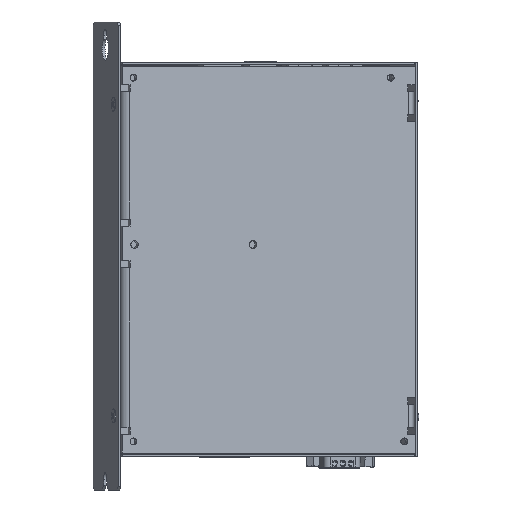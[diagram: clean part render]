
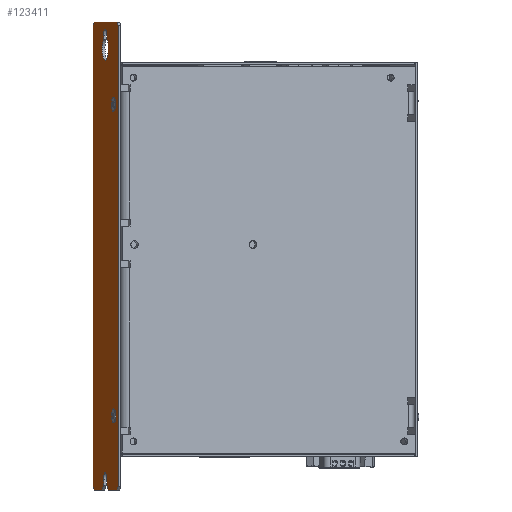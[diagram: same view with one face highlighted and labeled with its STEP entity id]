
A CAD part, left-side view. The second image highlights one B-rep face of the part: STEP entity #123411.
In plain terms, the highlighted planar face has unit normal (-0.259, 0.966, 0).
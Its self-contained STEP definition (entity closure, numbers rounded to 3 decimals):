
#1951=CIRCLE('',#130100,0.098);
#1953=CIRCLE('',#130103,0.098);
#1955=CIRCLE('',#130106,0.197);
#1963=CIRCLE('',#130127,0.118);
#1965=CIRCLE('',#130131,0.118);
#4676=FACE_BOUND('',#12134,.T.);
#4677=FACE_BOUND('',#12135,.T.);
#4678=FACE_BOUND('',#12136,.T.);
#5459=FACE_OUTER_BOUND('',#12133,.T.);
#12133=EDGE_LOOP('',(#76709,#76710,#76711,#76712,#76713,#76714,#76715,#76716,
#76717,#76718,#76719,#76720,#76721,#76722,#76723,#76724));
#12134=EDGE_LOOP('',(#76725,#76726,#76727,#76728));
#12135=EDGE_LOOP('',(#76729));
#12136=EDGE_LOOP('',(#76730));
#19578=LINE('',#172646,#33781);
#19582=LINE('',#172654,#33785);
#19584=LINE('',#172659,#33787);
#19588=LINE('',#172671,#33791);
#19592=LINE('',#172683,#33795);
#19595=LINE('',#172689,#33798);
#19597=LINE('',#172693,#33800);
#19602=LINE('',#172704,#33805);
#19604=LINE('',#172709,#33807);
#19610=LINE('',#172722,#33813);
#19613=LINE('',#172726,#33816);
#19614=LINE('',#172729,#33817);
#19615=LINE('',#172730,#33818);
#19616=LINE('',#172731,#33819);
#19617=LINE('',#172732,#33820);
#19618=LINE('',#172734,#33821);
#19619=LINE('',#172735,#33822);
#33781=VECTOR('',#139612,0.039);
#33785=VECTOR('',#139620,0.039);
#33787=VECTOR('',#139624,0.039);
#33791=VECTOR('',#139636,0.039);
#33795=VECTOR('',#139648,0.039);
#33798=VECTOR('',#139653,0.039);
#33800=VECTOR('',#139657,0.039);
#33805=VECTOR('',#139664,0.039);
#33807=VECTOR('',#139668,0.039);
#33813=VECTOR('',#139676,0.039);
#33816=VECTOR('',#139681,0.039);
#33817=VECTOR('',#139684,0.039);
#33818=VECTOR('',#139685,0.039);
#33819=VECTOR('',#139686,0.039);
#33820=VECTOR('',#139687,0.039);
#33821=VECTOR('',#139688,0.039);
#33822=VECTOR('',#139689,0.039);
#47962=VERTEX_POINT('',#172575);
#47964=VERTEX_POINT('',#172581);
#47967=VERTEX_POINT('',#172588);
#47968=VERTEX_POINT('',#172590);
#47983=VERTEX_POINT('',#172634);
#47986=VERTEX_POINT('',#172642);
#47988=VERTEX_POINT('',#172652);
#47990=VERTEX_POINT('',#172658);
#47993=VERTEX_POINT('',#172668);
#47994=VERTEX_POINT('',#172670);
#47996=VERTEX_POINT('',#172675);
#47998=VERTEX_POINT('',#172682);
#48000=VERTEX_POINT('',#172688);
#48001=VERTEX_POINT('',#172692);
#48005=VERTEX_POINT('',#172701);
#48006=VERTEX_POINT('',#172703);
#48007=VERTEX_POINT('',#172707);
#48008=VERTEX_POINT('',#172708);
#48013=VERTEX_POINT('',#172719);
#48014=VERTEX_POINT('',#172721);
#48015=VERTEX_POINT('',#172728);
#48016=VERTEX_POINT('',#172733);
#59170=EDGE_CURVE('',#47962,#47962,#1951,.T.);
#59173=EDGE_CURVE('',#47964,#47964,#1953,.T.);
#59176=EDGE_CURVE('',#47967,#47968,#1955,.T.);
#59204=EDGE_CURVE('',#47983,#47986,#19578,.T.);
#59208=EDGE_CURVE('',#47988,#47967,#19582,.T.);
#59210=EDGE_CURVE('',#47968,#47990,#19584,.T.);
#59213=EDGE_CURVE('',#47990,#47988,#1963,.T.);
#59216=EDGE_CURVE('',#47993,#47994,#19588,.T.);
#59220=EDGE_CURVE('',#47994,#47996,#1965,.T.);
#59222=EDGE_CURVE('',#47996,#47998,#19592,.T.);
#59225=EDGE_CURVE('',#47998,#48000,#19595,.T.);
#59227=EDGE_CURVE('',#48000,#48001,#19597,.T.);
#59232=EDGE_CURVE('',#48005,#48006,#19602,.T.);
#59234=EDGE_CURVE('',#48007,#48008,#19604,.T.);
#59240=EDGE_CURVE('',#48013,#48014,#19610,.T.);
#59243=EDGE_CURVE('',#48014,#47993,#19613,.T.);
#59244=EDGE_CURVE('',#47986,#48015,#19614,.T.);
#59245=EDGE_CURVE('',#48015,#48001,#19615,.T.);
#59246=EDGE_CURVE('',#48013,#48008,#19616,.T.);
#59247=EDGE_CURVE('',#48007,#48006,#19617,.T.);
#59248=EDGE_CURVE('',#48005,#48016,#19618,.T.);
#59249=EDGE_CURVE('',#48016,#47983,#19619,.T.);
#76709=ORIENTED_EDGE('',*,*,#59244,.T.);
#76710=ORIENTED_EDGE('',*,*,#59245,.T.);
#76711=ORIENTED_EDGE('',*,*,#59227,.F.);
#76712=ORIENTED_EDGE('',*,*,#59225,.F.);
#76713=ORIENTED_EDGE('',*,*,#59222,.F.);
#76714=ORIENTED_EDGE('',*,*,#59220,.F.);
#76715=ORIENTED_EDGE('',*,*,#59216,.F.);
#76716=ORIENTED_EDGE('',*,*,#59243,.F.);
#76717=ORIENTED_EDGE('',*,*,#59240,.F.);
#76718=ORIENTED_EDGE('',*,*,#59246,.T.);
#76719=ORIENTED_EDGE('',*,*,#59234,.F.);
#76720=ORIENTED_EDGE('',*,*,#59247,.T.);
#76721=ORIENTED_EDGE('',*,*,#59232,.F.);
#76722=ORIENTED_EDGE('',*,*,#59248,.T.);
#76723=ORIENTED_EDGE('',*,*,#59249,.T.);
#76724=ORIENTED_EDGE('',*,*,#59204,.T.);
#76725=ORIENTED_EDGE('',*,*,#59213,.F.);
#76726=ORIENTED_EDGE('',*,*,#59210,.F.);
#76727=ORIENTED_EDGE('',*,*,#59176,.F.);
#76728=ORIENTED_EDGE('',*,*,#59208,.F.);
#76729=ORIENTED_EDGE('',*,*,#59170,.F.);
#76730=ORIENTED_EDGE('',*,*,#59173,.F.);
#111449=PLANE('',#130139);
#123411=ADVANCED_FACE('',(#5459,#4676,#4677,#4678),#111449,.T.);
#130100=AXIS2_PLACEMENT_3D('',#172577,#139545,#139546);
#130103=AXIS2_PLACEMENT_3D('',#172583,#139552,#139553);
#130106=AXIS2_PLACEMENT_3D('',#172591,#139559,#139560);
#130127=AXIS2_PLACEMENT_3D('',#172663,#139630,#139631);
#130131=AXIS2_PLACEMENT_3D('',#172678,#139643,#139644);
#130139=AXIS2_PLACEMENT_3D('',#172727,#139682,#139683);
#139545=DIRECTION('center_axis',(-0.259,0.966,0.));
#139546=DIRECTION('ref_axis',(-0.966,-0.259,0.));
#139552=DIRECTION('center_axis',(-0.259,0.966,0.));
#139553=DIRECTION('ref_axis',(-0.966,-0.259,0.));
#139559=DIRECTION('center_axis',(-0.259,0.966,0.));
#139560=DIRECTION('ref_axis',(-0.966,-0.259,0.));
#139612=DIRECTION('',(0.,0.,-1.));
#139620=DIRECTION('',(0.,0.,-1.));
#139624=DIRECTION('',(0.,0.,1.));
#139630=DIRECTION('center_axis',(-0.259,0.966,0.));
#139631=DIRECTION('ref_axis',(-0.966,-0.259,0.));
#139636=DIRECTION('',(0.,0.,1.));
#139643=DIRECTION('center_axis',(-0.259,0.966,0.));
#139644=DIRECTION('ref_axis',(-0.966,-0.259,0.));
#139648=DIRECTION('',(0.,0.,-1.));
#139653=DIRECTION('',(0.683,0.183,-0.707));
#139657=DIRECTION('',(0.966,0.259,0.));
#139664=DIRECTION('',(-0.966,-0.259,0.));
#139668=DIRECTION('',(0.,0.,-1.));
#139676=DIRECTION('',(0.966,0.259,0.));
#139681=DIRECTION('',(0.683,0.183,0.707));
#139682=DIRECTION('center_axis',(-0.259,0.966,0.));
#139683=DIRECTION('ref_axis',(-0.966,-0.259,0.));
#139684=DIRECTION('',(0.,0.,-1.));
#139685=DIRECTION('',(-0.683,-0.183,-0.707));
#139686=DIRECTION('',(-0.683,-0.183,0.707));
#139687=DIRECTION('',(0.683,0.183,0.707));
#139688=DIRECTION('',(0.683,0.183,-0.707));
#139689=DIRECTION('',(0.,0.,-1.));
#172575=CARTESIAN_POINT('',(-1.571,3.87,5.713));
#172577=CARTESIAN_POINT('Origin',(-1.666,3.844,5.713));
#172581=CARTESIAN_POINT('',(-1.571,3.87,0.398));
#172583=CARTESIAN_POINT('Origin',(-1.666,3.844,0.398));
#172588=CARTESIAN_POINT('',(-1.,4.022,6.795));
#172590=CARTESIAN_POINT('',(-1.228,3.961,6.795));
#172591=CARTESIAN_POINT('Origin',(-1.114,3.992,6.638));
#172634=CARTESIAN_POINT('',(-0.35,4.197,6.355));
#172642=CARTESIAN_POINT('',(-0.35,4.197,-0.244));
#172646=CARTESIAN_POINT('',(-0.35,4.197,-0.862));
#172652=CARTESIAN_POINT('',(-1.,4.022,6.855));
#172654=CARTESIAN_POINT('',(-1.,4.022,6.855));
#172658=CARTESIAN_POINT('',(-1.228,3.961,6.855));
#172659=CARTESIAN_POINT('',(-1.228,3.961,6.855));
#172663=CARTESIAN_POINT('Origin',(-1.114,3.992,6.855));
#172668=CARTESIAN_POINT('',(-1.228,3.961,-0.783));
#172670=CARTESIAN_POINT('',(-1.228,3.961,-0.685));
#172671=CARTESIAN_POINT('',(-1.228,3.961,-0.685));
#172675=CARTESIAN_POINT('',(-1.,4.022,-0.685));
#172678=CARTESIAN_POINT('Origin',(-1.114,3.992,-0.685));
#172682=CARTESIAN_POINT('',(-1.,4.022,-0.783));
#172683=CARTESIAN_POINT('',(-1.,4.022,-0.685));
#172688=CARTESIAN_POINT('',(-0.924,4.043,-0.862));
#172689=CARTESIAN_POINT('',(-1.,4.022,-0.783));
#172692=CARTESIAN_POINT('',(-0.407,4.181,-0.862));
#172693=CARTESIAN_POINT('',(-0.342,4.199,-0.862));
#172701=CARTESIAN_POINT('',(-0.407,4.181,7.091));
#172703=CARTESIAN_POINT('',(-1.875,3.788,7.091));
#172704=CARTESIAN_POINT('',(-1.932,3.773,7.091));
#172707=CARTESIAN_POINT('',(-1.932,3.773,7.032));
#172708=CARTESIAN_POINT('',(-1.932,3.773,-0.803));
#172709=CARTESIAN_POINT('',(-1.932,3.773,-0.862));
#172719=CARTESIAN_POINT('',(-1.875,3.788,-0.862));
#172721=CARTESIAN_POINT('',(-1.304,3.941,-0.862));
#172722=CARTESIAN_POINT('',(-0.342,4.199,-0.862));
#172726=CARTESIAN_POINT('',(-1.228,3.961,-0.783));
#172727=CARTESIAN_POINT('Origin',(-0.342,4.199,-0.862));
#172728=CARTESIAN_POINT('',(-0.35,4.197,-0.803));
#172729=CARTESIAN_POINT('',(-0.35,4.197,-0.299));
#172730=CARTESIAN_POINT('',(-0.375,4.19,-0.829));
#172731=CARTESIAN_POINT('',(-1.109,3.993,-1.655));
#172732=CARTESIAN_POINT('',(-4.949,2.964,3.908));
#172733=CARTESIAN_POINT('',(-0.35,4.197,7.032));
#172734=CARTESIAN_POINT('',(3.466,5.219,3.081));
#172735=CARTESIAN_POINT('',(-0.35,4.197,-0.862));
